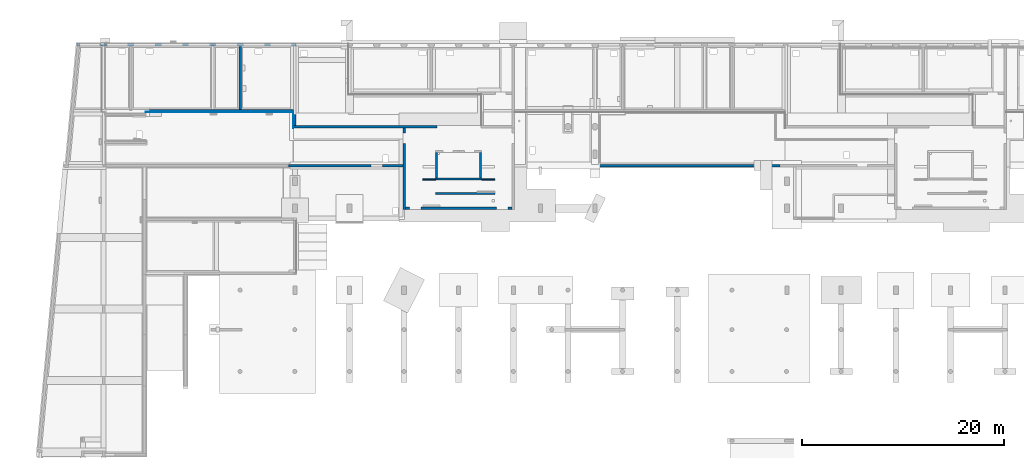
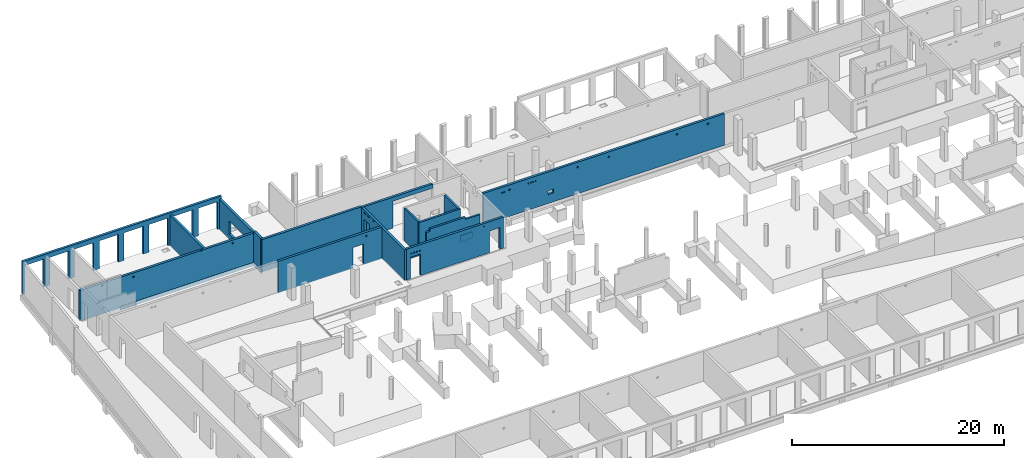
# One storey, part 41 of 60: 17 walls, 44 openings.
"""IFC2X3 building model written with IfcOpenShell, lengths in millimetres."""

from ifc_helpers import new_model, entity, si_unit, converted_unit, derived_unit, direction, frame, frame_2d, origin, origin_2d_with_axis, place, context, subcontext, project, spatial, polyline, rectangle, circle, extrude, clip, bounded_halfspace, material, layer, layer_set, layer_usage, type_object, element, save


model = new_model("IFC2X3")

# Units and contexts
model_context = context("Model", 3, precision=0.01, world=origin(), true_north=direction((6.12303176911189e-17, 1.0)))
body_context = subcontext(model_context, "Body", "Model", "MODEL_VIEW")
ifc_project = project(units=[si_unit("LENGTHUNIT", "METRE", prefix="MILLI"), si_unit("AREAUNIT", "SQUARE_METRE"), si_unit("VOLUMEUNIT", "CUBIC_METRE"), converted_unit("PLANEANGLEUNIT", "DEGREE", entity("IfcRatioMeasure", 0.0174532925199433), si_unit("PLANEANGLEUNIT", "RADIAN"), dimensions=[0, 0, 0, 0, 0, 0, 0]), si_unit("MASSUNIT", "GRAM", prefix="KILO"), derived_unit("MASSDENSITYUNIT", [(si_unit("MASSUNIT", "GRAM", prefix="KILO"), 1), (si_unit("LENGTHUNIT", "METRE"), -3)]), si_unit("TIMEUNIT", "SECOND"), si_unit("FREQUENCYUNIT", "HERTZ"), si_unit("THERMODYNAMICTEMPERATUREUNIT", "DEGREE_CELSIUS"), derived_unit("THERMALTRANSMITTANCEUNIT", [(si_unit("MASSUNIT", "GRAM", prefix="KILO"), 1), (si_unit("THERMODYNAMICTEMPERATUREUNIT", "KELVIN"), -1), (si_unit("TIMEUNIT", "SECOND"), -3)]), derived_unit("VOLUMETRICFLOWRATEUNIT", [(si_unit("LENGTHUNIT", "METRE"), 3), (si_unit("TIMEUNIT", "SECOND"), -1)]), si_unit("ELECTRICCURRENTUNIT", "AMPERE"), si_unit("ELECTRICVOLTAGEUNIT", "VOLT"), si_unit("POWERUNIT", "WATT"), si_unit("FORCEUNIT", "NEWTON", prefix="KILO"), si_unit("ILLUMINANCEUNIT", "LUX"), si_unit("LUMINOUSFLUXUNIT", "LUMEN"), si_unit("LUMINOUSINTENSITYUNIT", "CANDELA"), derived_unit("USERDEFINED", [(si_unit("MASSUNIT", "GRAM", prefix="KILO"), -1), (si_unit("LENGTHUNIT", "METRE"), -2), (si_unit("TIMEUNIT", "SECOND"), 3), (si_unit("LUMINOUSFLUXUNIT", "LUMEN"), 1)]), derived_unit("LINEARVELOCITYUNIT", [(si_unit("LENGTHUNIT", "METRE"), 1), (si_unit("TIMEUNIT", "SECOND"), -1)]), si_unit("PRESSUREUNIT", "PASCAL"), derived_unit("USERDEFINED", [(si_unit("LENGTHUNIT", "METRE"), -2), (si_unit("MASSUNIT", "GRAM", prefix="KILO"), 1), (si_unit("TIMEUNIT", "SECOND"), -2)])], contexts=[model_context])

# Site, building, storey
site_placement = place(None, origin())
site = spatial("IfcSite", under=ifc_project, at=site_placement, Name="Default", CompositionType="ELEMENT")
building_placement = place(site_placement, origin())
building = spatial("IfcBuilding", under=site, at=building_placement, Name="niet gebruiken", CompositionType="ELEMENT")
storey_placement = place(building_placement, origin())
storey = spatial("IfcBuildingStorey", under=building, at=storey_placement, Name="00 begane grond", CompositionType="ELEMENT", Elevation=0.0)

# Wall, openings
ifc_material_1 = material(Name="NLRS_f2_beton ihwg")
ifc_layer_1 = layer(ifc_material_1, 250.0)
ifc_layer_set_1 = layer_set([ifc_layer_1], Name="Basic Wall:NLRS_22.21_WA_beton ihwg d=250_gen")
ifc_layer_usage_1 = layer_usage(ifc_layer_set_1, "AXIS2", "NEGATIVE", 125.0)
wall_type_1 = type_object("IfcWallType", Name="Basic Wall:NLRS_22.21_WA_beton ihwg d=250_gen", PredefinedType="STANDARD", material=ifc_layer_set_1)
wall_1_placement = place(storey_placement, frame((26370.0, 41186.0, -70.0)))
wall_1 = element("IfcWallStandardCase", 1, at=wall_1_placement, inside=storey, type_object=wall_type_1, material=ifc_layer_usage_1, Name="Basic Wall:NLRS_22.21_WA_beton ihwg d=250_gen", ObjectType="Basic Wall:NLRS_22.21_WA_beton ihwg d=250_gen", context=body_context, shape_type="SweptSolid", body=[
    extrude(rectangle(XDim=11304.9999999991, YDim=249.999999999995, at=frame_2d((5652.49999999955, -1.84741111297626e-13), x_axis=(-1.0, 0.0))), origin(), (0.0, 0.0, 1.0), 3630.0),
])
opening_1_placement = place(wall_1_placement, origin())
element("IfcOpeningElement", 2, at=opening_1_placement, cuts=wall_1, Name="Basic Wall:NLRS_22.21_WA_beton ihwg d=250_gen", ObjectType="Opening", context=body_context, shape_type="SweptSolid", body=[
    extrude(rectangle(XDim=2370.0, YDim=1155.0, at=frame_2d((-1.13686837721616e-13, -2.1600499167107e-12), x_axis=(1.0, 0.0))), frame((8727.49999999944, -1649.0, 1185.0), z_axis=(0.0, 1.0, 0.0), x_axis=(0.0, 0.0, 1.0)), (0.0, 0.0, 1.0), 3048.0),
])
opening_2_placement = place(wall_1_placement, origin())
element("IfcOpeningElement", 3, at=opening_2_placement, cuts=wall_1, Name="Basic Wall:NLRS_22.21_WA_beton ihwg d=250_gen", ObjectType="Opening", context=body_context, shape_type="SweptSolid", body=[
    extrude(circle(Radius=80.0, at=frame_2d((0.0, -5.41433564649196e-13), x_axis=(1.0, 0.0))), frame((9605.00002916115, -125.0, 3210.0), z_axis=(0.0, 1.0, 0.0), x_axis=(1.0, 0.0, 0.0)), (0.0, 0.0, 1.0), 250.000000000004),
])

ifc_layer_usage_2 = layer_usage(ifc_layer_set_1, "AXIS2", "NEGATIVE", 125.0)
wall_2_placement = place(storey_placement, frame((26850.0, 46621.0, -160.0), z_axis=(0.0, 0.0, 1.0), x_axis=(-1.0, 0.0, 0.0)))
wall_2 = element("IfcWallStandardCase", 4, at=wall_2_placement, inside=storey, type_object=wall_type_1, material=ifc_layer_usage_2, Name="Basic Wall:NLRS_22.21_WA_beton ihwg d=250_gen", ObjectType="Basic Wall:NLRS_22.21_WA_beton ihwg d=250_gen", context=body_context, shape_type="SweptSolid", body=[
    extrude(rectangle(XDim=18920.0, YDim=249.999999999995, at=frame_2d((9460.0, -3.12638803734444e-12), x_axis=(-1.0, 0.0))), origin(), (0.0, 0.0, 1.0), 3511.59527223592),
])
opening_3_placement = place(wall_2_placement, origin())
element("IfcOpeningElement", 5, at=opening_3_placement, cuts=wall_2, Name="Basic Wall:NLRS_22.21_WA_beton ihwg d=250_gen", ObjectType="Opening", context=body_context, shape_type="SweptSolid", body=[
    extrude(circle(Radius=100.0, at=origin_2d_with_axis()), frame((5675.0, -125.0, 3530.0), z_axis=(0.0, 1.0, 0.0), x_axis=(-1.0, 0.0, 0.0)), (0.0, 0.0, 1.0), 250.000000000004),
])
opening_4_placement = place(wall_2_placement, origin())
element("IfcOpeningElement", 6, at=opening_4_placement, cuts=wall_2, Name="Basic Wall:NLRS_22.21_WA_beton ihwg d=250_gen", ObjectType="Opening", context=body_context, shape_type="SweptSolid", body=[
    extrude(circle(Radius=100.0, at=origin_2d_with_axis()), frame((13090.0, -125.0, 3060.0), z_axis=(0.0, 1.0, 0.0), x_axis=(-1.0, 0.0, 0.0)), (0.0, 0.0, 1.0), 250.000000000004),
])
opening_5_placement = place(wall_2_placement, origin())
element("IfcOpeningElement", 7, at=opening_5_placement, cuts=wall_2, Name="Basic Wall:NLRS_22.21_WA_beton ihwg d=250_gen", ObjectType="Opening", context=body_context, shape_type="SweptSolid", body=[
    extrude(circle(Radius=100.0, at=origin_2d_with_axis()), frame((16475.0, -125.0, 3260.0), z_axis=(0.0, 1.0, 0.0), x_axis=(-1.0, 0.0, 0.0)), (0.0, 0.0, 1.0), 250.000000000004),
])
opening_6_placement = place(wall_2_placement, origin())
element("IfcOpeningElement", 8, at=opening_6_placement, cuts=wall_2, Name="Basic Wall:NLRS_22.21_WA_beton ihwg d=250_gen", ObjectType="Opening", context=body_context, shape_type="SweptSolid", body=[
    extrude(circle(Radius=100.0, at=frame_2d((0.0, -5.41433564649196e-13), x_axis=(1.0, 0.0))), frame((2290.0, -125.0, 3160.0), z_axis=(0.0, 1.0, 0.0), x_axis=(-1.0, 0.0, 0.0)), (0.0, 0.0, 1.0), 250.000000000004),
])

ifc_layer_usage_3 = layer_usage(ifc_layer_set_1, "AXIS2", "NEGATIVE", 125.0)
wall_3_placement = place(storey_placement, frame((26850.0, 45031.0, -160.0)))
wall_3 = element("IfcWallStandardCase", 9, at=wall_3_placement, inside=storey, type_object=wall_type_1, material=ifc_layer_usage_3, Name="Basic Wall:NLRS_22.21_WA_beton ihwg d=250_gen", ObjectType="Basic Wall:NLRS_22.21_WA_beton ihwg d=250_gen", context=body_context, shape_type="Clipping", body=[
    clip(clip(clip(clip(clip(extrude(rectangle(XDim=18574.9999999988, YDim=249.999999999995, at=frame_2d((9287.4999999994, -3.03401748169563e-12), x_axis=(-1.0, 0.0))), origin(), (0.0, 0.0, 1.0), 3720.0), bounded_halfspace(frame((0.0, 125.0, 3720.0), z_axis=(0.0, 0.0, -1.0), x_axis=(1.0, 0.0, 0.0)), True, frame((0.0, 125.0, 3720.0), z_axis=(0.0, 0.0, -1.0), x_axis=(1.0, 0.0, 0.0)), polyline([(0.0, 0.0), (20.0, 0.0), (10824.9998491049, 0.0), (10824.9998491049, 250.0), (0.0, 250.0), (0.0, 0.0)]))), bounded_halfspace(frame((10824.9998491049, 125.0, 3630.0), z_axis=(0.0, 0.0, -1.0), x_axis=(1.0, 0.0, 0.0)), True, frame((10824.9998491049, 125.0, 3630.0), z_axis=(0.0, 0.0, -1.0), x_axis=(1.0, 0.0, 0.0)), polyline([(0.0, 0.0), (3250.0, 0.0), (7750.00015089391, 0.0), (7750.00015089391, 230.0), (7750.00015089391, 250.0), (3250.0, 250.0), (250.000150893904, 250.0), (230.000150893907, 250.0), (0.0, 250.0), (0.0, 0.0)]))), bounded_halfspace(frame((10824.9998491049, -125.0, 3630.0), z_axis=(-1.0, 0.0, 0.0), x_axis=(0.0, 0.0, 1.0)), True, frame((10824.9998491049, -125.0, 3630.0), z_axis=(-1.0, 0.0, 0.0), x_axis=(0.0, 0.0, 1.0)), polyline([(0.0, 0.0), (90.0, 0.0), (90.0, 250.0), (0.0, 250.0), (0.0, 0.0)]))), bounded_halfspace(frame((10825.0, -125.0, 70.0), z_axis=(0.0, 0.0, 1.0), x_axis=(0.0, -1.0, 0.0)), True, frame((10825.0, -125.0, 70.0), z_axis=(0.0, 0.0, 1.0), x_axis=(0.0, -1.0, 0.0)), polyline([(0.0, 0.0), (0.0, 250.0), (0.0, 3400.0), (-250.0, 3400.0), (-250.0, 0.0), (0.0, 0.0)]))), bounded_halfspace(frame((10825.0, 125.0, 70.0), z_axis=(-1.0, 0.0, 0.0), x_axis=(0.0, 0.0, 1.0)), True, frame((10825.0, 125.0, 70.0), z_axis=(-1.0, 0.0, 0.0), x_axis=(0.0, 0.0, 1.0)), polyline([(0.0, 0.0), (-70.0, 0.0), (-70.0, -250.0), (0.0, -250.0), (0.0, 0.0)]))),
])
opening_7_placement = place(wall_3_placement, origin())
element("IfcOpeningElement", 10, at=opening_7_placement, cuts=wall_3, Name="Basic Wall:NLRS_22.21_WA_beton ihwg d=250_gen", ObjectType="Opening", context=body_context, shape_type="SweptSolid", body=[
    extrude(rectangle(XDim=3160.0, YDim=4350.0, at=origin_2d_with_axis()), frame((16400.0, -1649.0, 1580.0), z_axis=(0.0, 1.0, 0.0), x_axis=(0.0, 0.0, 1.0)), (0.0, 0.0, 1.0), 3048.0),
])
opening_8_placement = place(wall_3_placement, origin())
element("IfcOpeningElement", 11, at=opening_8_placement, cuts=wall_3, Name="Basic Wall:NLRS_22.21_WA_beton ihwg d=250_gen", ObjectType="Opening", context=body_context, shape_type="SweptSolid", body=[
    extrude(rectangle(XDim=90.0000000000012, YDim=7625.00000000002, at=origin_2d_with_axis()), frame((14762.4999999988, 125.0, 3925.0), z_axis=(0.0, -1.0, 0.0), x_axis=(0.0, 0.0, 1.0)), (0.0, 0.0, 1.0), 250.0),
])

ifc_layer_usage_4 = layer_usage(ifc_layer_set_1, "AXIS2", "NEGATIVE", 125.0)
wall_4_placement = place(storey_placement, frame((26975.0, 52986.0, -160.0), z_axis=(0.0, 0.0, 1.0), x_axis=(0.0, -1.0, 0.0)))
wall_4 = element("IfcWallStandardCase", 12, at=wall_4_placement, inside=storey, type_object=wall_type_1, material=ifc_layer_usage_4, Name="Basic Wall:NLRS_22.21_WA_beton ihwg d=250_gen", ObjectType="Basic Wall:NLRS_22.21_WA_beton ihwg d=250_gen", context=body_context, shape_type="Clipping", body=[
    clip(clip(extrude(rectangle(XDim=7809.99999999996, YDim=250.000000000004, at=frame_2d((3904.99999999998, 0.0), x_axis=(-1.0, 0.0))), origin(), (0.0, 0.0, 1.0), 3720.00000000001), bounded_halfspace(frame((0.0, -125.0, 3510.0), z_axis=(0.0, 0.0, -1.0), x_axis=(0.0, 1.0, 0.0)), True, frame((0.0, -125.0, 3510.0), z_axis=(0.0, 0.0, -1.0), x_axis=(0.0, 1.0, 0.0)), polyline([(0.0, 0.0), (250.0, 0.0), (250.0, 6490.0), (0.0, 6490.0), (0.0, 0.0)]))), bounded_halfspace(frame((6490.0, -125.0, 3720.0), z_axis=(0.0, 0.0, -1.0), x_axis=(0.0, 1.0, 0.0)), True, frame((6490.0, -125.0, 3720.0), z_axis=(0.0, 0.0, -1.0), x_axis=(0.0, 1.0, 0.0)), polyline([(0.0, 0.0), (20.0, 0.0), (250.0, 0.0), (250.0, 1320.0), (20.0, 1320.0), (0.0, 1320.0), (0.0, 0.0)]))),
])
opening_9_placement = place(wall_4_placement, origin())
element("IfcOpeningElement", 13, at=opening_9_placement, cuts=wall_4, Name="Basic Wall:NLRS_22.21_WA_beton ihwg d=250_gen", ObjectType="Opening", context=body_context, shape_type="SweptSolid", body=[
    extrude(rectangle(XDim=1560.0, YDim=4450.0, at=frame_2d((-1.13686837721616e-13, -4.32009983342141e-12), x_axis=(1.0, 0.0))), frame((4015.0, -1649.0, 1320.0), z_axis=(0.0, 1.0, 0.0), x_axis=(0.0, 0.0, 1.0)), (0.0, 0.0, 1.0), 3048.0),
])
opening_10_placement = place(wall_4_placement, origin())
element("IfcOpeningElement", 14, at=opening_10_placement, cuts=wall_4, Name="Basic Wall:NLRS_22.21_WA_beton ihwg d=250_gen", ObjectType="Opening", context=body_context, shape_type="SweptSolid", body=[
    extrude(rectangle(XDim=209.999999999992, YDim=6489.99999999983, at=frame_2d((4.32009983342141e-12, 5.40012479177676e-13), x_axis=(0.0, 1.0))), frame((3245.0, 125.0, 3865.0), z_axis=(0.0, -1.0, 0.0), x_axis=(-1.0, 0.0, 0.0)), (0.0, 0.0, 1.0), 250.0),
])

# Wall, opening
ifc_layer_usage_5 = layer_usage(ifc_layer_set_1, "AXIS2", "NEGATIVE", 125.0)
wall_5_placement = place(storey_placement, frame((21600.0, 52986.0, -160.0), z_axis=(0.0, 0.0, 1.0), x_axis=(0.0, -1.0, 0.0)))
wall_5 = element("IfcWallStandardCase", 15, at=wall_5_placement, inside=storey, type_object=wall_type_1, material=ifc_layer_usage_5, Name="Basic Wall:NLRS_22.21_WA_beton ihwg d=250_gen", ObjectType="Basic Wall:NLRS_22.21_WA_beton ihwg d=250_gen", context=body_context, shape_type="SweptSolid", body=[
    extrude(rectangle(XDim=6239.99999999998, YDim=250.000000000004, at=frame_2d((3119.99999999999, 5.25801624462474e-13), x_axis=(-1.0, 0.0))), origin(), (0.0, 0.0, 1.0), 3510.0),
])
opening_11_placement = place(wall_5_placement, origin())
element("IfcOpeningElement", 16, at=opening_11_placement, cuts=wall_5, Name="Basic Wall:NLRS_22.21_WA_beton ihwg d=250_gen", ObjectType="Recess", context=body_context, shape_type="SweptSolid", body=[
    extrude(rectangle(XDim=890.0, YDim=49.9999999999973, at=origin_2d_with_axis()), frame((4490.0, 85.0, 515.0), z_axis=(0.0, 1.0, 0.0), x_axis=(0.0, 0.0, -1.0)), (0.0, 0.0, 1.0), 39.9999999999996),
])

# Wall, openings
ifc_layer_usage_6 = layer_usage(ifc_layer_set_1, "AXIS2", "NEGATIVE", 125.0)
wall_6_placement = place(storey_placement, frame((37800.0, 44906.0, -90.0), z_axis=(0.0, 0.0, 1.0), x_axis=(0.0, -1.0, 0.0)))
wall_6 = element("IfcWallStandardCase", 17, at=wall_6_placement, inside=storey, type_object=wall_type_1, material=ifc_layer_usage_6, Name="Basic Wall:NLRS_22.21_WA_beton ihwg d=250_gen", ObjectType="Basic Wall:NLRS_22.21_WA_beton ihwg d=250_gen", context=body_context, shape_type="Clipping", body=[
    clip(extrude(rectangle(XDim=8049.99999999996, YDim=250.000000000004, at=frame_2d((4024.99999999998, 1.25766064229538e-12), x_axis=(-1.0, 0.0))), origin(), (0.0, 0.0, 1.0), 3560.0), bounded_halfspace(frame((0.0, -125.0, 3560.0), z_axis=(0.0, 0.0, -1.0), x_axis=(0.0, 1.0, 0.0)), True, frame((0.0, -125.0, 3560.0), z_axis=(0.0, 0.0, -1.0), x_axis=(0.0, 1.0, 0.0)), polyline([(0.0, 0.0), (250.0, 0.0), (250.0, 7080.0), (250.0, 7800.0), (250.0, 8050.0), (0.0, 8050.0), (0.0, 0.0)]))),
])
opening_12_placement = place(wall_6_placement, origin())
element("IfcOpeningElement", 18, at=opening_12_placement, cuts=wall_6, Name="Basic Wall:NLRS_22.21_WA_beton ihwg d=250_gen", ObjectType="Opening", context=body_context, shape_type="SweptSolid", body=[
    extrude(rectangle(XDim=2470.0, YDim=1025.0, at=frame_2d((0.0, -4.32009983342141e-12), x_axis=(1.0, 0.0))), frame((1007.4999999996, -1649.0, 1235.0), z_axis=(0.0, 1.0, 0.0), x_axis=(0.0, 0.0, 1.0)), (0.0, 0.0, 1.0), 3048.0),
])
opening_13_placement = place(wall_6_placement, origin())
element("IfcOpeningElement", 19, at=opening_13_placement, cuts=wall_6, Name="Basic Wall:NLRS_22.21_WA_beton ihwg d=250_gen", ObjectType="Opening", context=body_context, shape_type="SweptSolid", body=[
    extrude(rectangle(XDim=120.0, YDim=370.000000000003, at=origin_2d_with_axis()), frame((680.0, -125.0, 3270.0), z_axis=(0.0, 1.0, 0.0), x_axis=(0.0, 0.0, -1.0)), (0.0, 0.0, 1.0), 250.000000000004),
])
opening_14_placement = place(wall_6_placement, origin())
element("IfcOpeningElement", 20, at=opening_14_placement, cuts=wall_6, Name="Basic Wall:NLRS_22.21_WA_beton ihwg d=250_gen", ObjectType="Opening", context=body_context, shape_type="SweptSolid", body=[
    extrude(circle(Radius=80.0, at=origin_2d_with_axis()), frame((2250.0, -125.0, 3350.0), z_axis=(0.0, 1.0, 0.0), x_axis=(-1.0, 0.0, 0.0)), (0.0, 0.0, 1.0), 249.999999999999),
])
opening_15_placement = place(wall_6_placement, origin())
element("IfcOpeningElement", 21, at=opening_15_placement, cuts=wall_6, Name="Basic Wall:NLRS_22.21_WA_beton ihwg d=250_gen", ObjectType="Opening", context=body_context, shape_type="SweptSolid", body=[
    extrude(rectangle(XDim=120.0, YDim=370.000000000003, at=origin_2d_with_axis()), frame((1335.0, -125.0, 3270.0), z_axis=(0.0, 1.0, 0.0), x_axis=(0.0, 0.0, -1.0)), (0.0, 0.0, 1.0), 250.000000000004),
])
opening_16_placement = place(wall_6_placement, origin())
element("IfcOpeningElement", 22, at=opening_16_placement, cuts=wall_6, Name="Basic Wall:NLRS_22.21_WA_beton ihwg d=250_gen", ObjectType="Opening", context=body_context, shape_type="SweptSolid", body=[
    extrude(circle(Radius=55.0, at=origin_2d_with_axis()), frame((2410.00024857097, -125.0, 3490.0), z_axis=(0.0, 1.0, 0.0), x_axis=(-1.0, 0.0, 0.0)), (0.0, 0.0, 1.0), 249.999999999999),
])

ifc_layer_usage_7 = layer_usage(ifc_layer_set_1, "AXIS2", "NEGATIVE", 125.0)
wall_7_placement = place(storey_placement, frame((37925.0, 36981.0, -90.0)))
wall_7 = element("IfcWallStandardCase", 23, at=wall_7_placement, inside=storey, type_object=wall_type_1, material=ifc_layer_usage_7, Name="Basic Wall:NLRS_22.21_WA_beton ihwg d=250_gen", ObjectType="Basic Wall:NLRS_22.21_WA_beton ihwg d=250_gen", context=body_context, shape_type="Clipping", body=[
    clip(extrude(rectangle(XDim=10550.0, YDim=250.000000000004, at=frame_2d((5275.0, 3.05533376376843e-13), x_axis=(-1.0, 0.0))), origin(), (0.0, 0.0, 1.0), 3560.0), bounded_halfspace(frame((0.0, -125.0, 3560.0), z_axis=(0.0, 0.0, -1.0), x_axis=(1.0, 0.0, 0.0)), True, frame((0.0, -125.0, 3560.0), z_axis=(0.0, 0.0, -1.0), x_axis=(1.0, 0.0, 0.0)), polyline([(0.0, 0.0), (0.0, -250.0), (300.0, -250.0), (3374.99978323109, -250.0), (7174.99978323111, -250.0), (10550.0, -250.0), (10550.0, 0.0), (0.0, 0.0)]))),
])
opening_17_placement = place(wall_7_placement, origin())
element("IfcOpeningElement", 24, at=opening_17_placement, cuts=wall_7, Name="Basic Wall:NLRS_22.21_WA_beton ihwg d=250_gen", ObjectType="Opening", context=body_context, shape_type="SweptSolid", body=[
    extrude(rectangle(XDim=2495.0, YDim=1130.0, at=origin_2d_with_axis()), frame((9585.0, -1649.0, 1247.5), z_axis=(0.0, 1.0, 0.0), x_axis=(0.0, 0.0, 1.0)), (0.0, 0.0, 1.0), 3048.0),
])
opening_18_placement = place(wall_7_placement, origin())
element("IfcOpeningElement", 25, at=opening_18_placement, cuts=wall_7, Name="Basic Wall:NLRS_22.21_WA_beton ihwg d=250_gen", ObjectType="Opening", context=body_context, shape_type="SweptSolid", body=[
    extrude(rectangle(XDim=2495.0, YDim=1130.0, at=frame_2d((0.0, 2.1600499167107e-12), x_axis=(1.0, 0.0))), frame((965.0, -1649.0, 1247.5), z_axis=(0.0, 1.0, 0.0), x_axis=(0.0, 0.0, 1.0)), (0.0, 0.0, 1.0), 3048.0),
])
opening_19_placement = place(wall_7_placement, origin())
element("IfcOpeningElement", 26, at=opening_19_placement, cuts=wall_7, Name="Basic Wall:NLRS_22.21_WA_beton ihwg d=250_gen", ObjectType="Opening", context=body_context, shape_type="SweptSolid", body=[
    extrude(circle(Radius=80.0, at=frame_2d((0.0, -5.41433564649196e-13), x_axis=(1.0, 0.0))), frame((515.0, -125.0, 2890.0), z_axis=(0.0, 1.0, 0.0), x_axis=(1.0, 0.0, 0.0)), (0.0, 0.0, 1.0), 249.999999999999),
])
opening_20_placement = place(wall_7_placement, origin())
element("IfcOpeningElement", 27, at=opening_20_placement, cuts=wall_7, Name="Basic Wall:NLRS_22.21_WA_beton ihwg d=250_gen", ObjectType="Opening", context=body_context, shape_type="SweptSolid", body=[
    extrude(circle(Radius=80.0, at=frame_2d((0.0, -5.41433564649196e-13), x_axis=(1.0, 0.0))), frame((815.0, -125.0, 2890.0), z_axis=(0.0, 1.0, 0.0), x_axis=(1.0, 0.0, 0.0)), (0.0, 0.0, 1.0), 249.999999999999),
])
opening_21_placement = place(wall_7_placement, origin())
element("IfcOpeningElement", 28, at=opening_21_placement, cuts=wall_7, Name="Basic Wall:NLRS_22.21_WA_beton ihwg d=250_gen", ObjectType="Opening", context=body_context, shape_type="SweptSolid", body=[
    extrude(circle(Radius=80.0, at=frame_2d((0.0, -5.41433564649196e-13), x_axis=(1.0, 0.0))), frame((1115.0, -125.0, 2890.0), z_axis=(0.0, 1.0, 0.0), x_axis=(1.0, 0.0, 0.0)), (0.0, 0.0, 1.0), 249.999999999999),
])
opening_22_placement = place(wall_7_placement, origin())
element("IfcOpeningElement", 29, at=opening_22_placement, cuts=wall_7, Name="Basic Wall:NLRS_22.21_WA_beton ihwg d=250_gen", ObjectType="Opening", context=body_context, shape_type="SweptSolid", body=[
    extrude(circle(Radius=80.0, at=frame_2d((0.0, -5.41433564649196e-13), x_axis=(1.0, 0.0))), frame((1415.0, -125.0, 2890.0), z_axis=(0.0, 1.0, 0.0), x_axis=(1.0, 0.0, 0.0)), (0.0, 0.0, 1.0), 249.999999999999),
])
opening_23_placement = place(wall_7_placement, origin())
element("IfcOpeningElement", 30, at=opening_23_placement, cuts=wall_7, Name="Basic Wall:NLRS_22.21_WA_beton ihwg d=250_gen", ObjectType="Opening", context=body_context, shape_type="SweptSolid", body=[
    extrude(circle(Radius=55.0, at=origin_2d_with_axis()), frame((8435.0, -125.0, 3210.0), z_axis=(0.0, 1.0, 0.0), x_axis=(1.0, 0.0, 0.0)), (0.0, 0.0, 1.0), 249.999999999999),
])

ifc_layer_usage_8 = layer_usage(ifc_layer_set_1, "AXIS2", "NEGATIVE", 125.0)
wall_8_placement = place(storey_placement, frame((48725.0, 41186.0, -70.0)))
wall_8 = element("IfcWallStandardCase", 31, at=wall_8_placement, inside=storey, type_object=wall_type_1, material=ifc_layer_usage_8, Name="Basic Wall:NLRS_22.21_WA_beton ihwg d=250_gen", ObjectType="Basic Wall:NLRS_22.21_WA_beton ihwg d=250_gen", context=body_context, shape_type="SweptSolid", body=[
    extrude(rectangle(XDim=26225.0, YDim=249.999999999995, at=frame_2d((13112.5, 2.8421709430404e-14), x_axis=(-1.0, 0.0))), origin(), (0.0, 0.0, 1.0), 3630.0),
])
opening_24_placement = place(wall_8_placement, origin())
element("IfcOpeningElement", 32, at=opening_24_placement, cuts=wall_8, Name="Basic Wall:NLRS_22.21_WA_beton ihwg d=250_gen", ObjectType="Opening", context=body_context, shape_type="SweptSolid", body=[
    extrude(circle(Radius=100.0, at=frame_2d((0.0, -5.41433564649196e-13), x_axis=(1.0, 0.0))), frame((2835.0, -125.0, 3070.0), z_axis=(0.0, 1.0, 0.0), x_axis=(1.0, 0.0, 0.0)), (0.0, 0.0, 1.0), 250.000000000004),
])
opening_25_placement = place(wall_8_placement, origin())
element("IfcOpeningElement", 33, at=opening_25_placement, cuts=wall_8, Name="Basic Wall:NLRS_22.21_WA_beton ihwg d=250_gen", ObjectType="Opening", context=body_context, shape_type="SweptSolid", body=[
    extrude(circle(Radius=100.0, at=frame_2d((0.0, -5.41433564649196e-13), x_axis=(1.0, 0.0))), frame((10250.0, -125.0, 3070.0), z_axis=(0.0, 1.0, 0.0), x_axis=(1.0, 0.0, 0.0)), (0.0, 0.0, 1.0), 250.000000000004),
])
opening_26_placement = place(wall_8_placement, origin())
element("IfcOpeningElement", 34, at=opening_26_placement, cuts=wall_8, Name="Basic Wall:NLRS_22.21_WA_beton ihwg d=250_gen", ObjectType="Opening", context=body_context, shape_type="SweptSolid", body=[
    extrude(circle(Radius=100.0, at=frame_2d((0.0, -5.41433564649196e-13), x_axis=(1.0, 0.0))), frame((13635.0, -125.0, 3070.0), z_axis=(0.0, 1.0, 0.0), x_axis=(1.0, 0.0, 0.0)), (0.0, 0.0, 1.0), 250.000000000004),
])
opening_27_placement = place(wall_8_placement, origin())
element("IfcOpeningElement", 35, at=opening_27_placement, cuts=wall_8, Name="Basic Wall:NLRS_22.21_WA_beton ihwg d=250_gen", ObjectType="Opening", context=body_context, shape_type="SweptSolid", body=[
    extrude(circle(Radius=100.0, at=frame_2d((0.0, -5.41433564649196e-13), x_axis=(1.0, 0.0))), frame((21050.0, -125.0, 3070.0), z_axis=(0.0, 1.0, 0.0), x_axis=(1.0, 0.0, 0.0)), (0.0, 0.0, 1.0), 250.000000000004),
])
opening_28_placement = place(wall_8_placement, origin())
element("IfcOpeningElement", 36, at=opening_28_placement, cuts=wall_8, Name="Basic Wall:NLRS_22.21_WA_beton ihwg d=250_gen", ObjectType="Opening", context=body_context, shape_type="SweptSolid", body=[
    extrude(circle(Radius=100.0, at=frame_2d((0.0, -5.41433564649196e-13), x_axis=(1.0, 0.0))), frame((24435.0, -125.0, 3070.0), z_axis=(0.0, 1.0, 0.0), x_axis=(1.0, 0.0, 0.0)), (0.0, 0.0, 1.0), 250.000000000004),
])
opening_29_placement = place(wall_8_placement, origin())
element("IfcOpeningElement", 37, at=opening_29_placement, cuts=wall_8, Name="Basic Wall:NLRS_22.21_WA_beton ihwg d=250_gen", ObjectType="Opening", context=body_context, shape_type="SweptSolid", body=[
    extrude(rectangle(XDim=450.0, YDim=600.000000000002, at=origin_2d_with_axis()), frame((7300.0, -125.0, 1245.0), z_axis=(0.0, 1.0, 0.0), x_axis=(0.0, 0.0, -1.0)), (0.0, 0.0, 1.0), 249.999999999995),
])
opening_30_placement = place(wall_8_placement, origin())
element("IfcOpeningElement", 38, at=opening_30_placement, cuts=wall_8, Name="Basic Wall:NLRS_22.21_WA_beton ihwg d=250_gen", ObjectType="Opening", context=body_context, shape_type="SweptSolid", body=[
    extrude(rectangle(XDim=100.0, YDim=340.000000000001, at=frame_2d((0.0, 4.33431068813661e-12), x_axis=(1.0, 0.0))), frame((2150.0, -125.0, 3000.0), z_axis=(0.0, 1.0, 0.0), x_axis=(0.0, 0.0, -1.0)), (0.0, 0.0, 1.0), 249.999999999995),
])
opening_31_placement = place(wall_8_placement, origin())
element("IfcOpeningElement", 39, at=opening_31_placement, cuts=wall_8, Name="Basic Wall:NLRS_22.21_WA_beton ihwg d=250_gen", ObjectType="Opening", context=body_context, shape_type="SweptSolid", body=[
    extrude(circle(Radius=55.0, at=origin_2d_with_axis()), frame((5650.0, -125.0, 3070.0), z_axis=(0.0, 1.0, 0.0), x_axis=(1.0, 0.0, 0.0)), (0.0, 0.0, 1.0), 250.000000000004),
])
opening_32_placement = place(wall_8_placement, origin())
element("IfcOpeningElement", 40, at=opening_32_placement, cuts=wall_8, Name="Basic Wall:NLRS_22.21_WA_beton ihwg d=250_gen", ObjectType="Opening", context=body_context, shape_type="SweptSolid", body=[
    extrude(circle(Radius=55.0, at=origin_2d_with_axis()), frame((5400.0, -125.0, 3070.0), z_axis=(0.0, 1.0, 0.0), x_axis=(1.0, 0.0, 0.0)), (0.0, 0.0, 1.0), 250.000000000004),
])
opening_33_placement = place(wall_8_placement, origin())
element("IfcOpeningElement", 41, at=opening_33_placement, cuts=wall_8, Name="Basic Wall:NLRS_22.21_WA_beton ihwg d=250_gen", ObjectType="Opening", context=body_context, shape_type="SweptSolid", body=[
    extrude(circle(Radius=55.0, at=origin_2d_with_axis()), frame((5150.0, -125.0, 3070.0), z_axis=(0.0, 1.0, 0.0), x_axis=(1.0, 0.0, 0.0)), (0.0, 0.0, 1.0), 250.000000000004),
])
opening_34_placement = place(wall_8_placement, origin())
element("IfcOpeningElement", 42, at=opening_34_placement, cuts=wall_8, Name="Basic Wall:NLRS_22.21_WA_beton ihwg d=250_gen", ObjectType="Opening", context=body_context, shape_type="SweptSolid", body=[
    extrude(circle(Radius=55.0, at=origin_2d_with_axis()), frame((4900.0, -125.0, 3070.0), z_axis=(0.0, 1.0, 0.0), x_axis=(1.0, 0.0, 0.0)), (0.0, 0.0, 1.0), 250.000000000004),
])

ifc_material_2 = material(Name="NLRS_f2_beton prefab")
ifc_layer_2 = layer(ifc_material_2, 250.0)
ifc_layer_set_2 = layer_set([ifc_layer_2], Name="Basic Wall:NLRS_21.21_WA_beton prefab d=250_gen")
ifc_layer_usage_9 = layer_usage(ifc_layer_set_2, "AXIS2", "NEGATIVE", 125.0)
wall_type_2 = type_object("IfcWallType", Name="Basic Wall:NLRS_21.21_WA_beton prefab d=250_gen", PredefinedType="STANDARD", material=ifc_layer_set_2)
wall_9_placement = place(storey_placement, frame((5489.22191752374, 53131.0, -130.0)))
wall_9 = element("IfcWallStandardCase", 43, at=wall_9_placement, inside=storey, type_object=wall_type_2, material=ifc_layer_usage_9, Name="Basic Wall:NLRS_21.21_WA_beton prefab d=250_gen", ObjectType="Basic Wall:NLRS_21.21_WA_beton prefab d=250_gen", context=body_context, shape_type="SweptSolid", body=[
    extrude(rectangle(XDim=21610.7780824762, YDim=249.999999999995, at=frame_2d((10805.3890412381, 3.97903932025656e-13), x_axis=(-1.0, 0.0))), origin(), (0.0, 0.0, 1.0), 3730.00000000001),
])
opening_35_placement = place(wall_9_placement, origin())
element("IfcOpeningElement", 44, at=opening_35_placement, cuts=wall_9, Name="Basic Wall:NLRS_21.21_WA_beton prefab d=250_gen", ObjectType="Opening", context=body_context, shape_type="SweptSolid", body=[
    extrude(rectangle(XDim=3230.0, YDim=2080.0, at=origin_2d_with_axis()), frame((3960.77808247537, -1649.0, 1585.0), z_axis=(0.0, 1.0, 0.0), x_axis=(0.0, 0.0, 1.0)), (0.0, 0.0, 1.0), 3048.0),
])
opening_36_placement = place(wall_9_placement, origin())
element("IfcOpeningElement", 45, at=opening_36_placement, cuts=wall_9, Name="Basic Wall:NLRS_21.21_WA_beton prefab d=250_gen", ObjectType="Opening", context=body_context, shape_type="SweptSolid", body=[
    extrude(rectangle(XDim=3230.0, YDim=2080.0, at=frame_2d((0.0, -2.1600499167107e-12), x_axis=(1.0, 0.0))), frame((20160.7780824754, -1649.0, 1585.0), z_axis=(0.0, 1.0, 0.0), x_axis=(0.0, 0.0, 1.0)), (0.0, 0.0, 1.0), 3048.0),
])
opening_37_placement = place(wall_9_placement, origin())
element("IfcOpeningElement", 46, at=opening_37_placement, cuts=wall_9, Name="Basic Wall:NLRS_21.21_WA_beton prefab d=250_gen", ObjectType="Opening", context=body_context, shape_type="SweptSolid", body=[
    extrude(rectangle(XDim=3230.0, YDim=2080.0, at=frame_2d((0.0, -2.1600499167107e-12), x_axis=(1.0, 0.0))), frame((17460.7780824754, -1649.0, 1585.0), z_axis=(0.0, 1.0, 0.0), x_axis=(0.0, 0.0, 1.0)), (0.0, 0.0, 1.0), 3048.0),
])
opening_38_placement = place(wall_9_placement, origin())
element("IfcOpeningElement", 47, at=opening_38_placement, cuts=wall_9, Name="Basic Wall:NLRS_21.21_WA_beton prefab d=250_gen", ObjectType="Opening", context=body_context, shape_type="SweptSolid", body=[
    extrude(rectangle(XDim=3230.0, YDim=2080.0, at=frame_2d((0.0, -2.1600499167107e-12), x_axis=(1.0, 0.0))), frame((14760.7780824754, -1649.0, 1585.0), z_axis=(0.0, 1.0, 0.0), x_axis=(0.0, 0.0, 1.0)), (0.0, 0.0, 1.0), 3048.0),
])
opening_39_placement = place(wall_9_placement, origin())
element("IfcOpeningElement", 48, at=opening_39_placement, cuts=wall_9, Name="Basic Wall:NLRS_21.21_WA_beton prefab d=250_gen", ObjectType="Opening", context=body_context, shape_type="SweptSolid", body=[
    extrude(rectangle(XDim=3230.0, YDim=2080.0, at=origin_2d_with_axis()), frame((12060.7780824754, -1649.0, 1585.0), z_axis=(0.0, 1.0, 0.0), x_axis=(0.0, 0.0, 1.0)), (0.0, 0.0, 1.0), 3048.0),
])
opening_40_placement = place(wall_9_placement, origin())
element("IfcOpeningElement", 49, at=opening_40_placement, cuts=wall_9, Name="Basic Wall:NLRS_21.21_WA_beton prefab d=250_gen", ObjectType="Opening", context=body_context, shape_type="SweptSolid", body=[
    extrude(rectangle(XDim=3230.0, YDim=2080.0, at=origin_2d_with_axis()), frame((9360.77808247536, -1649.0, 1585.0), z_axis=(0.0, 1.0, 0.0), x_axis=(0.0, 0.0, 1.0)), (0.0, 0.0, 1.0), 3048.0),
])
opening_41_placement = place(wall_9_placement, origin())
element("IfcOpeningElement", 50, at=opening_41_placement, cuts=wall_9, Name="Basic Wall:NLRS_21.21_WA_beton prefab d=250_gen", ObjectType="Opening", context=body_context, shape_type="SweptSolid", body=[
    extrude(rectangle(XDim=3230.0, YDim=2080.0, at=origin_2d_with_axis()), frame((6660.77808247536, -1649.0, 1585.0), z_axis=(0.0, 1.0, 0.0), x_axis=(0.0, 0.0, 1.0)), (0.0, 0.0, 1.0), 3048.0),
])
opening_42_placement = place(wall_9_placement, origin())
element("IfcOpeningElement", 51, at=opening_42_placement, cuts=wall_9, Name="Basic Wall:NLRS_21.21_WA_beton prefab d=250_gen", ObjectType="Opening", context=body_context, shape_type="SweptSolid", body=[
    extrude(rectangle(XDim=3230.0, YDim=2080.0, at=origin_2d_with_axis()), frame((1260.77808247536, -1649.0, 1585.0), z_axis=(0.0, 1.0, 0.0), x_axis=(0.0, 0.0, 1.0)), (0.0, 0.0, 1.0), 3048.0),
])

# Walls
ifc_material_3 = material(Name="NLRS_f1_kalkzandsteen wit")
ifc_layer_3 = layer(ifc_material_3, 150.0)
ifc_layer_set_3 = layer_set([ifc_layer_3], Name="Basic Wall:NLRS_21.11_WA_kalkzandsteen vellingblok d=150_gen")
ifc_layer_usage_10 = layer_usage(ifc_layer_set_3, "AXIS2", "NEGATIVE", 75.0)
wall_type_3 = type_object("IfcWallType", Name="Basic Wall:NLRS_21.11_WA_kalkzandsteen vellingblok d=150_gen", PredefinedType="STANDARD", material=ifc_layer_set_3)
wall_10_placement = place(storey_placement, frame((39628.0, 39821.0, -90.0)))
element("IfcWallStandardCase", 52, at=wall_10_placement, inside=storey, type_object=wall_type_3, material=ifc_layer_usage_10, Name="Basic Wall:NLRS_21.11_WA_kalkzandsteen vellingblok d=150_gen", ObjectType="Basic Wall:NLRS_21.11_WA_kalkzandsteen vellingblok d=150_gen", context=body_context, shape_type="SweptSolid", body=[
    extrude(rectangle(XDim=1296.99984910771, YDim=150.000000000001, at=frame_2d((648.499924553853, 0.0), x_axis=(-1.0, 0.0))), origin(), (0.0, 0.0, 1.0), 705.909090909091),
])
ifc_layer_usage_11 = layer_usage(ifc_layer_set_3, "AXIS2", "NEGATIVE", 75.0)
wall_11_placement = place(storey_placement, frame((45474.9998491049, 39821.0, -90.0)))
element("IfcWallStandardCase", 53, at=wall_11_placement, inside=storey, type_object=wall_type_3, material=ifc_layer_usage_11, Name="Basic Wall:NLRS_21.11_WA_kalkzandsteen vellingblok d=150_gen", ObjectType="Basic Wall:NLRS_21.11_WA_kalkzandsteen vellingblok d=150_gen", context=body_context, shape_type="SweptSolid", body=[
    extrude(rectangle(XDim=1297.00015089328, YDim=150.000000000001, at=frame_2d((648.50007544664, 0.0), x_axis=(-1.0, 0.0))), origin(), (0.0, 0.0, 1.0), 705.909090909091),
])

# Wall, openings
ifc_layer_4 = layer(ifc_material_2, 200.0)
ifc_layer_set_4 = layer_set([ifc_layer_4], Name="Basic Wall:NLRS_22.21_WA_beton prefab d=200_gen")
ifc_layer_usage_12 = layer_usage(ifc_layer_set_4, "AXIS2", "NEGATIVE", 100.0)
wall_type_4 = type_object("IfcWallType", Name="Basic Wall:NLRS_22.21_WA_beton prefab d=200_gen", PredefinedType="STANDARD", material=ifc_layer_set_4)
wall_12_placement = place(storey_placement, frame((46775.0, 38426.0, -60.0), z_axis=(0.0, 0.0, 1.0), x_axis=(-1.0, 0.0, 0.0)))
wall_12 = element("IfcWallStandardCase", 54, at=wall_12_placement, inside=storey, type_object=wall_type_4, material=ifc_layer_usage_12, Name="Basic Wall:NLRS_22.21_WA_beton prefab d=200_gen", ObjectType="Basic Wall:NLRS_22.21_WA_beton prefab d=200_gen", context=body_context, shape_type="SweptSolid", body=[
    extrude(rectangle(XDim=5850.00015089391, YDim=199.999999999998, at=frame_2d((2925.00007544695, 0.0), x_axis=(-1.0, 0.0))), origin(), (0.0, 0.0, 1.0), 3780.0),
])
opening_43_placement = place(wall_12_placement, origin())
element("IfcOpeningElement", 55, at=opening_43_placement, cuts=wall_12, Name="Basic Wall:NLRS_22.21_WA_beton prefab d=200_gen", ObjectType="Opening", context=body_context, shape_type="SweptSolid", body=[
    extrude(rectangle(XDim=270.0, YDim=408.000000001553, at=frame_2d((-2.70006239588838e-13, 0.0), x_axis=(1.0, 0.0))), frame((5646.00015089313, 100.0, 3645.0), z_axis=(0.0, -1.0, 0.0), x_axis=(0.0, 0.0, 1.0)), (0.0, 0.0, 1.0), 200.0),
])
opening_44_placement = place(wall_12_placement, origin())
element("IfcOpeningElement", 56, at=opening_44_placement, cuts=wall_12, Name="Basic Wall:NLRS_22.21_WA_beton prefab d=200_gen", ObjectType="Opening", context=body_context, shape_type="SweptSolid", body=[
    extrude(rectangle(XDim=249.999999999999, YDim=1575.00000000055, at=frame_2d((-4.32009983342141e-12, 0.0), x_axis=(0.0, 1.0))), frame((787.50000000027, 100.0, 3655.0), z_axis=(0.0, -1.0, 0.0), x_axis=(-1.0, 0.0, 0.0)), (0.0, 0.0, 1.0), 200.0),
])

# Walls
ifc_layer_usage_13 = layer_usage(ifc_layer_set_4, "AXIS2", "NEGATIVE", 100.0)
wall_13_placement = place(storey_placement, frame((41024.9998491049, 39946.0, -60.0), z_axis=(0.0, 0.0, 1.0), x_axis=(0.0, 1.0, 0.0)))
element("IfcWallStandardCase", 57, at=wall_13_placement, inside=storey, type_object=wall_type_4, material=ifc_layer_usage_13, Name="Basic Wall:NLRS_22.21_WA_beton prefab d=200_gen", ObjectType="Basic Wall:NLRS_22.21_WA_beton prefab d=200_gen", context=body_context, shape_type="SweptSolid", body=[
    extrude(rectangle(XDim=2549.99999999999, YDim=200.000000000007, at=frame_2d((1275.0, 0.0), x_axis=(-1.0, 0.0))), origin(), (0.0, 0.0, 1.0), 3780.0),
])
ifc_layer_usage_14 = layer_usage(ifc_layer_set_4, "AXIS2", "NEGATIVE", 100.0)
wall_14_placement = place(storey_placement, frame((45374.999849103, 42496.0, -60.0), z_axis=(0.0, 0.0, 1.0), x_axis=(0.0, -1.0, 0.0)))
element("IfcWallStandardCase", 58, at=wall_14_placement, inside=storey, type_object=wall_type_4, material=ifc_layer_usage_14, Name="Basic Wall:NLRS_22.21_WA_beton prefab d=200_gen", ObjectType="Basic Wall:NLRS_22.21_WA_beton prefab d=200_gen", context=body_context, shape_type="SweptSolid", body=[
    extrude(rectangle(XDim=2549.99999999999, YDim=200.000000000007, at=frame_2d((1275.0, 2.34479102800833e-13), x_axis=(-1.0, 0.0))), origin(), (0.0, 0.0, 1.0), 3780.0),
])
ifc_layer_usage_15 = layer_usage(ifc_layer_set_4, "AXIS2", "NEGATIVE", 100.0)
wall_15_placement = place(storey_placement, frame((45475.0, 39846.0, -60.0), z_axis=(0.0, 0.0, 1.0), x_axis=(-1.0, 0.0, 0.0)))
element("IfcWallStandardCase", 59, at=wall_15_placement, inside=storey, type_object=wall_type_4, material=ifc_layer_usage_15, Name="Basic Wall:NLRS_22.21_WA_beton prefab d=200_gen", ObjectType="Basic Wall:NLRS_22.21_WA_beton prefab d=200_gen", context=body_context, shape_type="SweptSolid", body=[
    extrude(rectangle(XDim=4549.99999999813, YDim=200.000000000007, at=frame_2d((2274.99999999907, 3.62376795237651e-13), x_axis=(-1.0, 0.0))), origin(), (0.0, 0.0, 1.0), 3780.0),
])
ifc_material_4 = material(Name="NLRS_n7_isolatie EPS")
ifc_layer_5 = layer(ifc_material_4, 20.0)
ifc_layer_set_5 = layer_set([ifc_layer_5], Name="Basic Wall:NLRS_21.12_WA_isolatie EPS platen d=20_gen")
ifc_layer_usage_16 = layer_usage(ifc_layer_set_5, "AXIS2", "NEGATIVE", 10.0)
wall_type_5 = type_object("IfcWallType", Name="Basic Wall:NLRS_21.12_WA_isolatie EPS platen d=20_gen", PredefinedType="STANDARD", material=ifc_layer_set_5)
wall_16_placement = place(storey_placement, frame((26840.0, 46476.0, -402.0), z_axis=(0.0, 0.0, 1.0), x_axis=(0.0, -1.0, 0.0)))
element("IfcWallStandardCase", 60, at=wall_16_placement, inside=storey, type_object=wall_type_5, material=ifc_layer_usage_16, Name="Basic Wall:NLRS_21.12_WA_isolatie EPS platen d=20_gen", ObjectType="Basic Wall:NLRS_21.12_WA_isolatie EPS platen d=20_gen", context=body_context, shape_type="SweptSolid", body=[
    extrude(rectangle(XDim=1569.99999999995, YDim=20.0000000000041, at=frame_2d((784.999999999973, 1.4210854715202e-14), x_axis=(-1.0, 0.0))), origin(), (0.0, 0.0, 1.0), 402.0),
])
ifc_layer_usage_17 = layer_usage(ifc_layer_set_5, "AXIS2", "NEGATIVE", 10.0)
wall_17_placement = place(storey_placement, frame((12269.9999049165, 46486.0, -402.0)))
element("IfcWallStandardCase", 61, at=wall_17_placement, inside=storey, type_object=wall_type_5, material=ifc_layer_usage_17, Name="Basic Wall:NLRS_21.12_WA_isolatie EPS platen d=20_gen", ObjectType="Basic Wall:NLRS_21.12_WA_isolatie EPS platen d=20_gen", context=body_context, shape_type="SweptSolid", body=[
    extrude(rectangle(XDim=14580.0000950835, YDim=19.9999999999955, at=frame_2d((7290.00004754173, -2.18491891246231e-12), x_axis=(-1.0, 0.0))), origin(), (0.0, 0.0, 1.0), 402.0),
])

save(model, "model.ifc")
